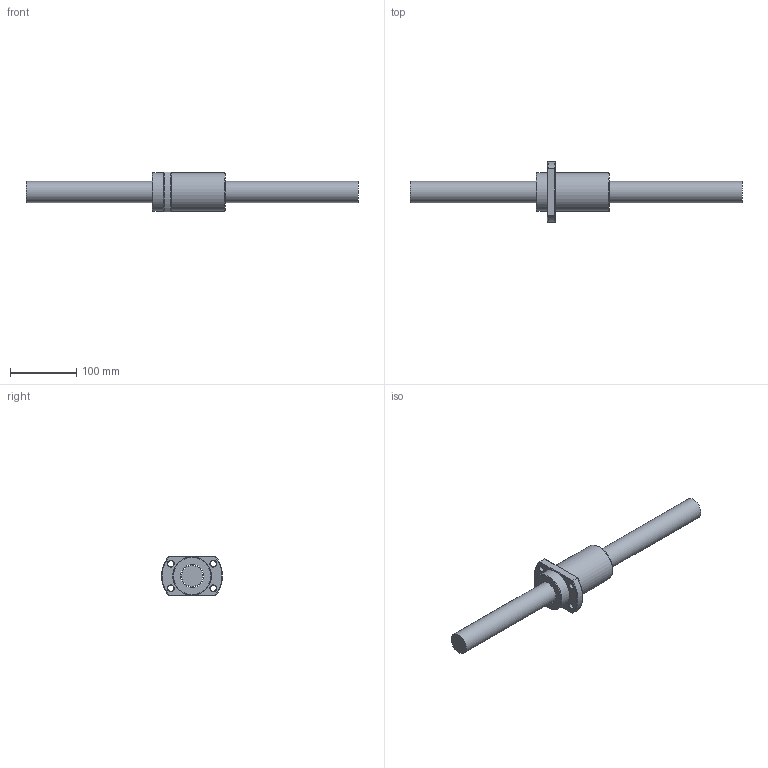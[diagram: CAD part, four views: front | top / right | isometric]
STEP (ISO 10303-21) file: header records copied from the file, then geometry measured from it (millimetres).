
FILE_DESCRIPTION (( 'STEP AP203' ), '1' );
FILE_NAME ('SFY03232-5.6.step', '2024-05-21T08:57:13', ( '' ), ( '' ), 'SwSTEP 2.0', 'SolidWorks 2022', '' );
FILE_SCHEMA (( 'CONFIG_CONTROL_DESIGN' ));
Length unit declared in the file: millimetre
Products named in the file (1): SFY03232-5.6
Bounding box: 500 x 91.86 x 60 mm (x, y, z)
Volume: 613794 mm3; surface area: 94089.9 mm2
Topology: 2 solids, 2 shells, 51 faces, 124 edges, 79 vertices
Faces by surface type: cylinder 18, plane 13, cone 9, torus 6, bspline 5
Full cylindrical faces by diameter (mm): 4 x1, 5 x6, 9 x4, 32 x1, 34.8 x1, 58 x2
Entity records: 3003 total; most frequent: CARTESIAN_POINT 2042, DIRECTION 170, ORIENTED_EDGE 156, EDGE_LOOP 80, EDGE_CURVE 78, AXIS2_PLACEMENT_3D 77, VERTEX_POINT 62, FACE_OUTER_BOUND 57
